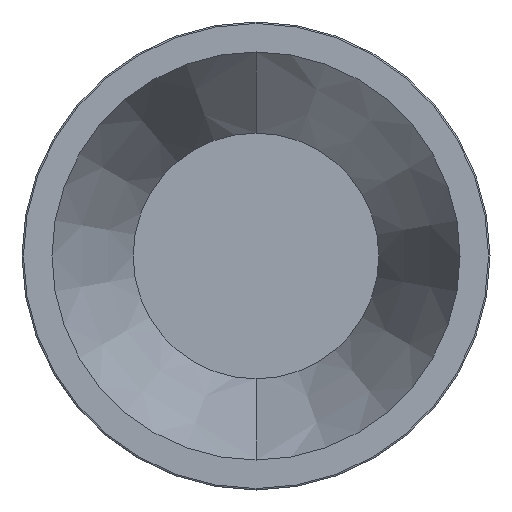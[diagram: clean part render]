
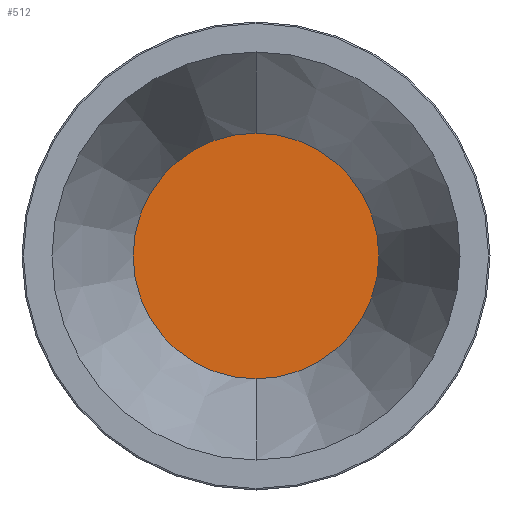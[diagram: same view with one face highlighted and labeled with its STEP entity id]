
A CAD part, front view. The second image highlights one B-rep face of the part: STEP entity #512.
In plain terms, the highlighted planar face has unit normal (0, -1, 0).
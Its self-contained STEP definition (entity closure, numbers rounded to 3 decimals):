
#1 = PLANE ( 'NONE',  #53 ) ;
#45 = CARTESIAN_POINT ( 'NONE',  ( 0., 0., 25. ) ) ;
#53 = AXIS2_PLACEMENT_3D ( 'NONE', #610, #773, #335 ) ;
#113 = ORIENTED_EDGE ( 'NONE', *, *, #285, .F. ) ;
#116 = CARTESIAN_POINT ( 'NONE',  ( 0., 0., -25. ) ) ;
#207 = VERTEX_POINT ( 'NONE', #116 ) ;
#285 = EDGE_CURVE ( 'NONE', #207, #652, #928, .T. ) ;
#335 = DIRECTION ( 'NONE',  ( 0., 0., 1. ) ) ;
#345 = EDGE_LOOP ( 'NONE', ( #113, #553 ) ) ;
#350 = CARTESIAN_POINT ( 'NONE',  ( 0., 0., 0. ) ) ;
#491 = DIRECTION ( 'NONE',  ( 0., 1., 0. ) ) ;
#512 = ADVANCED_FACE ( 'NONE', ( #881 ), #1, .F. ) ;
#527 = DIRECTION ( 'NONE',  ( 0., 0., 1. ) ) ;
#553 = ORIENTED_EDGE ( 'NONE', *, *, #681, .F. ) ;
#610 = CARTESIAN_POINT ( 'NONE',  ( 0., 0., 0. ) ) ;
#652 = VERTEX_POINT ( 'NONE', #45 ) ;
#681 = EDGE_CURVE ( 'NONE', #652, #207, #715, .T. ) ;
#715 = CIRCLE ( 'NONE', #939, 25. ) ;
#773 = DIRECTION ( 'NONE',  ( 0., 1., 0. ) ) ;
#835 = AXIS2_PLACEMENT_3D ( 'NONE', #1106, #963, #527 ) ;
#881 = FACE_OUTER_BOUND ( 'NONE', #345, .T. ) ;
#928 = CIRCLE ( 'NONE', #835, 25. ) ;
#938 = DIRECTION ( 'NONE',  ( 0., 0., 1. ) ) ;
#939 = AXIS2_PLACEMENT_3D ( 'NONE', #350, #491, #938 ) ;
#963 = DIRECTION ( 'NONE',  ( 0., 1., 0. ) ) ;
#1106 = CARTESIAN_POINT ( 'NONE',  ( 0., 0., 0. ) ) ;
